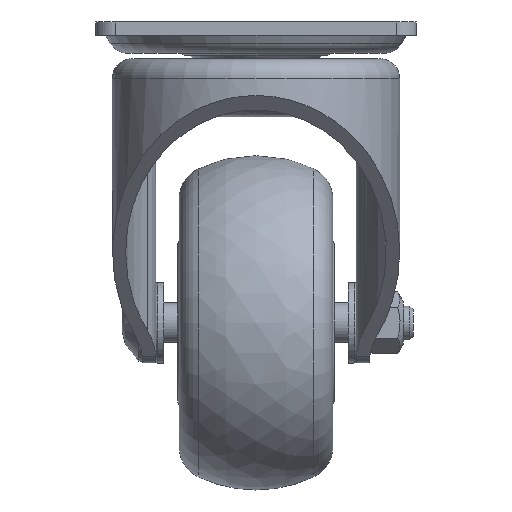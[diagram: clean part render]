
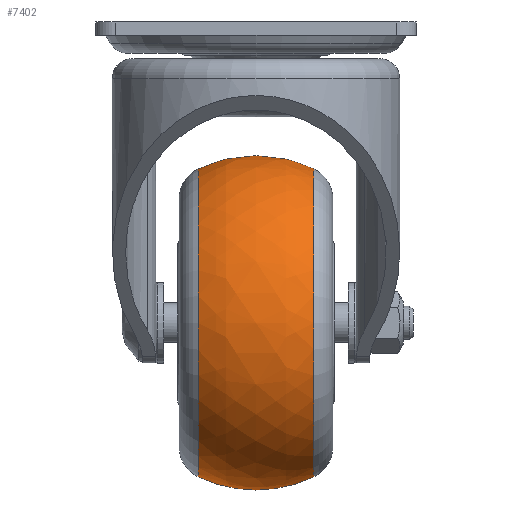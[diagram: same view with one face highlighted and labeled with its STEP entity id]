
A CAD part, left-side view. The second image highlights one B-rep face of the part: STEP entity #7402.
In plain terms, the highlighted free-form (B-spline) face has degree [2, 2] with [3, 9] control points.
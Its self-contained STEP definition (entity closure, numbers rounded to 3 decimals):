
#269=(
BOUNDED_SURFACE()
B_SPLINE_SURFACE(2,2,((#14088,#14089,#14090,#14091,#14092,#14093,#14094,
#14095,#14096),(#14097,#14098,#14099,#14100,#14101,#14102,#14103,#14104,
#14105),(#14106,#14107,#14108,#14109,#14110,#14111,#14112,#14113,#14114)),
 .UNSPECIFIED.,.F.,.T.,.F.)
B_SPLINE_SURFACE_WITH_KNOTS((3,3),(3,2,2,2,3),(-0.448,0.448),
(-3.142,-1.571,0.,1.571,3.142),
 .UNSPECIFIED.)
GEOMETRIC_REPRESENTATION_ITEM()
RATIONAL_B_SPLINE_SURFACE(((1.,0.707,1.,0.707,1.,
0.707,1.,0.707,1.),(0.901,0.637,
0.901,0.637,0.901,0.637,
0.901,0.637,0.901),(1.,0.707,
1.,0.707,1.,0.707,1.,0.707,1.)))
REPRESENTATION_ITEM('')
SURFACE()
);
#928=FACE_OUTER_BOUND('',#1419,.T.);
#1419=EDGE_LOOP('',(#6791,#6792,#6793,#6794,#6795,#6796));
#2984=CIRCLE('',#8035,23.025);
#2988=CIRCLE('',#8039,23.025);
#2989=CIRCLE('',#8040,23.025);
#2990=CIRCLE('',#8041,23.025);
#2991=CIRCLE('',#8042,20.);
#3695=VERTEX_POINT('',#14079);
#3696=VERTEX_POINT('',#14080);
#3699=VERTEX_POINT('',#14115);
#3700=VERTEX_POINT('',#14116);
#4738=EDGE_CURVE('',#3695,#3696,#2984,.T.);
#4742=EDGE_CURVE('',#3696,#3695,#2988,.T.);
#4743=EDGE_CURVE('',#3699,#3700,#2989,.T.);
#4744=EDGE_CURVE('',#3700,#3699,#2990,.T.);
#4745=EDGE_CURVE('',#3700,#3696,#2991,.T.);
#6791=ORIENTED_EDGE('',*,*,#4743,.F.);
#6792=ORIENTED_EDGE('',*,*,#4744,.F.);
#6793=ORIENTED_EDGE('',*,*,#4745,.T.);
#6794=ORIENTED_EDGE('',*,*,#4738,.F.);
#6795=ORIENTED_EDGE('',*,*,#4742,.F.);
#6796=ORIENTED_EDGE('',*,*,#4745,.F.);
#7402=ADVANCED_FACE('',(#928),#269,.F.);
#8035=AXIS2_PLACEMENT_3D('',#14081,#9666,#9667);
#8039=AXIS2_PLACEMENT_3D('',#14087,#9674,#9675);
#8040=AXIS2_PLACEMENT_3D('',#14117,#9676,#9677);
#8041=AXIS2_PLACEMENT_3D('',#14118,#9678,#9679);
#8042=AXIS2_PLACEMENT_3D('',#14119,#9680,#9681);
#9666=DIRECTION('center_axis',(1.,0.,0.));
#9667=DIRECTION('ref_axis',(0.,0.,
1.));
#9674=DIRECTION('center_axis',(1.,0.,0.));
#9675=DIRECTION('ref_axis',(0.,0.,
1.));
#9676=DIRECTION('center_axis',(-1.,0.,0.));
#9677=DIRECTION('ref_axis',(0.,0.,
1.));
#9678=DIRECTION('center_axis',(-1.,0.,0.));
#9679=DIRECTION('ref_axis',(0.,0.,
1.));
#9680=DIRECTION('center_axis',(0.,1.,0.));
#9681=DIRECTION('ref_axis',(0.,0.,
1.));
#14079=CARTESIAN_POINT('',(-0.438,11.853,-31.149));
#14080=CARTESIAN_POINT('',(-0.438,11.853,14.9));
#14081=CARTESIAN_POINT('Origin',(-0.438,11.853,-8.125));
#14087=CARTESIAN_POINT('Origin',(-0.438,11.853,-8.125));
#14088=CARTESIAN_POINT('Ctrl Pts',(-0.438,11.853,
14.9));
#14089=CARTESIAN_POINT('Ctrl Pts',(-0.438,34.878,
14.9));
#14090=CARTESIAN_POINT('Ctrl Pts',(-0.438,34.878,
-8.125));
#14091=CARTESIAN_POINT('Ctrl Pts',(-0.438,34.878,
-31.149));
#14092=CARTESIAN_POINT('Ctrl Pts',(-0.438,11.853,
-31.149));
#14093=CARTESIAN_POINT('Ctrl Pts',(-0.438,-11.172,
-31.149));
#14094=CARTESIAN_POINT('Ctrl Pts',(-0.438,-11.172,
-8.125));
#14095=CARTESIAN_POINT('Ctrl Pts',(-0.438,-11.172,
14.9));
#14096=CARTESIAN_POINT('Ctrl Pts',(-0.438,11.853,
14.9));
#14097=CARTESIAN_POINT('Ctrl Pts',(-9.105,11.853,19.067));
#14098=CARTESIAN_POINT('Ctrl Pts',(-9.105,39.045,19.067));
#14099=CARTESIAN_POINT('Ctrl Pts',(-9.105,39.045,-8.125));
#14100=CARTESIAN_POINT('Ctrl Pts',(-9.105,39.045,-35.317));
#14101=CARTESIAN_POINT('Ctrl Pts',(-9.105,11.853,-35.317));
#14102=CARTESIAN_POINT('Ctrl Pts',(-9.105,-15.339,-35.317));
#14103=CARTESIAN_POINT('Ctrl Pts',(-9.105,-15.339,-8.125));
#14104=CARTESIAN_POINT('Ctrl Pts',(-9.105,-15.339,19.067));
#14105=CARTESIAN_POINT('Ctrl Pts',(-9.105,11.853,19.067));
#14106=CARTESIAN_POINT('Ctrl Pts',(-17.771,11.853,14.9));
#14107=CARTESIAN_POINT('Ctrl Pts',(-17.771,34.878,14.9));
#14108=CARTESIAN_POINT('Ctrl Pts',(-17.771,34.878,-8.125));
#14109=CARTESIAN_POINT('Ctrl Pts',(-17.771,34.878,-31.149));
#14110=CARTESIAN_POINT('Ctrl Pts',(-17.771,11.853,-31.149));
#14111=CARTESIAN_POINT('Ctrl Pts',(-17.771,-11.172,
-31.149));
#14112=CARTESIAN_POINT('Ctrl Pts',(-17.771,-11.172,
-8.125));
#14113=CARTESIAN_POINT('Ctrl Pts',(-17.771,-11.172,
14.9));
#14114=CARTESIAN_POINT('Ctrl Pts',(-17.771,11.853,14.9));
#14115=CARTESIAN_POINT('',(-17.771,11.853,-31.149));
#14116=CARTESIAN_POINT('',(-17.771,11.853,14.9));
#14117=CARTESIAN_POINT('Origin',(-17.771,11.853,-8.125));
#14118=CARTESIAN_POINT('Origin',(-17.771,11.853,-8.125));
#14119=CARTESIAN_POINT('Origin',(-9.105,11.853,-3.125));
